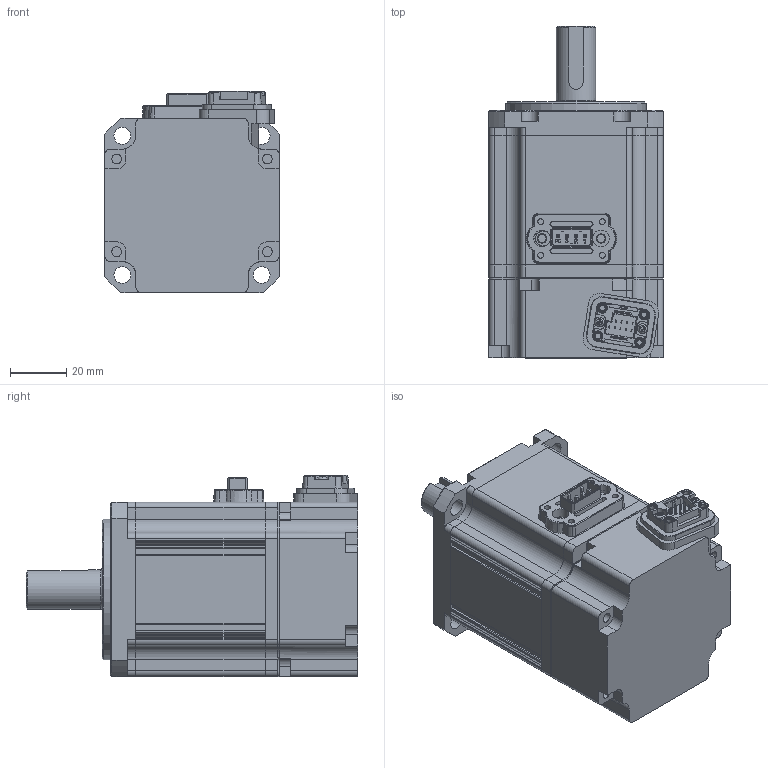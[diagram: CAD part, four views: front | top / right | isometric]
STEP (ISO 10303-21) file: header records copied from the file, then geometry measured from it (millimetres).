
FILE_DESCRIPTION(/* description */ (''),/* implementation_level */ '2;1');
FILE_NAME(/* name */ '\\EMN0D5F01\rp_inventor\RP Mechanical Design\P Series Files\P Series Step from ipt files\PM-FBL02AMK.stp',/* time_stamp */ '2015-06-05T16:57:49-07:00',/* author */ ('jb17719'),/* organization */ (''),/* preprocessor_version */ 'ST-DEVELOPER v15.2',/* originating_system */ 'Autodesk Inventor 2014',/* authorisation */ '');
FILE_SCHEMA (('AUTOMOTIVE_DESIGN { 1 0 10303 214 3 1 1 }'));
Products named in the file (1): PM-FBL02AMK.STEP
Bounding box: 62 x 118 x 71.5 mm (x, y, z)
Volume: 307179.5 mm3; surface area: 67536.3 mm2
Topology: 12 solids, 17 shells, 1494 faces, 4410 edges, 2984 vertices
Faces by surface type: plane 971, cylinder 310, bspline 137, cone 42, torus 26, sphere 8
Full cylindrical faces by diameter (mm): 0.8 x9, 1.4 x4, 2 x10, 2.1 x14, 3 x14, 3.3 x1, 3.4 x1, 3.5 x8, 3.6 x4, 6 x6, 14 x1, 15 x1, 15.3 x1, 50 x1
Entity records: 61233 total; most frequent: CARTESIAN_POINT 22465, ORIENTED_EDGE 8086, DIRECTION 7313, EDGE_CURVE 4303, LINE 3001, VECTOR 3001, VERTEX_POINT 2976, AXIS2_PLACEMENT_3D 2156
